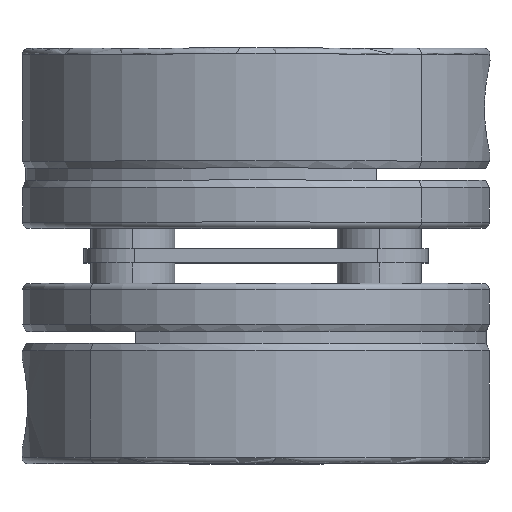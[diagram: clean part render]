
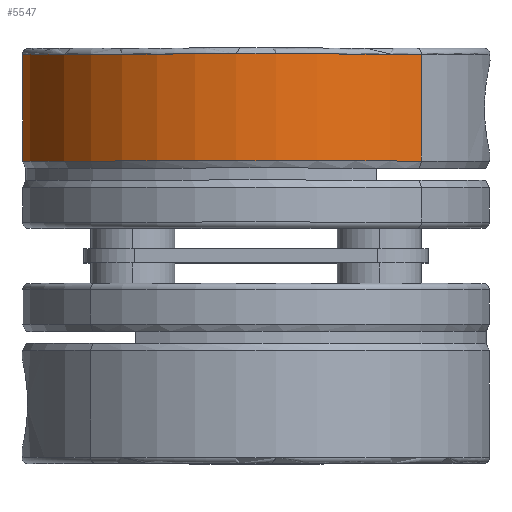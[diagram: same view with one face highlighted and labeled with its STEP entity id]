
A CAD part, top view. The second image highlights one B-rep face of the part: STEP entity #5547.
In plain terms, the highlighted cylindrical face has radius 19.5 mm (diameter 39 mm), a partial arc.
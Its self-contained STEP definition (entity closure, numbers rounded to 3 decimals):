
#211 = AXIS2_PLACEMENT_3D ( 'NONE', #5947, #2170, #4509 ) ;
#217 = ORIENTED_EDGE ( 'NONE', *, *, #2326, .F. ) ;
#338 = CARTESIAN_POINT ( 'NONE',  ( 0., 5.589, 19.5 ) ) ;
#469 = CARTESIAN_POINT ( 'NONE',  ( 0., 14.5, -19.5 ) ) ;
#545 = CARTESIAN_POINT ( 'NONE',  ( 0., 0., 0. ) ) ;
#716 = VERTEX_POINT ( 'NONE', #469 ) ;
#858 = VECTOR ( 'NONE', #3011, 1000. ) ;
#930 = CARTESIAN_POINT ( 'NONE',  ( 0., 0., -19.5 ) ) ;
#1083 = FACE_OUTER_BOUND ( 'NONE', #4563, .T. ) ;
#1302 = DIRECTION ( 'NONE',  ( 0., -1., 0. ) ) ;
#1369 = EDGE_CURVE ( 'NONE', #716, #2846, #1406, .T. ) ;
#1406 = LINE ( 'NONE', #930, #3516 ) ;
#1466 = DIRECTION ( 'NONE',  ( 0., -1., 0. ) ) ;
#1522 = ORIENTED_EDGE ( 'NONE', *, *, #5336, .F. ) ;
#1740 = DIRECTION ( 'NONE',  ( 0., 0., -1. ) ) ;
#1817 = CIRCLE ( 'NONE', #211, 19.5 ) ;
#1859 = CIRCLE ( 'NONE', #2461, 19.5 ) ;
#1935 = CARTESIAN_POINT ( 'NONE',  ( 0., 14.5, 19.5 ) ) ;
#2132 = CARTESIAN_POINT ( 'NONE',  ( 0., 5.589, -19.5 ) ) ;
#2170 = DIRECTION ( 'NONE',  ( 0., -1., 0. ) ) ;
#2258 = AXIS2_PLACEMENT_3D ( 'NONE', #545, #1466, #2371 ) ;
#2326 = EDGE_CURVE ( 'NONE', #2634, #6165, #3992, .T. ) ;
#2371 = DIRECTION ( 'NONE',  ( 0., 0., -1. ) ) ;
#2461 = AXIS2_PLACEMENT_3D ( 'NONE', #6145, #1302, #1740 ) ;
#2477 = CARTESIAN_POINT ( 'NONE',  ( 0., 0., 19.5 ) ) ;
#2634 = VERTEX_POINT ( 'NONE', #1935 ) ;
#2813 = DIRECTION ( 'NONE',  ( 0., -1., 0. ) ) ;
#2846 = VERTEX_POINT ( 'NONE', #2132 ) ;
#2985 = ORIENTED_EDGE ( 'NONE', *, *, #3422, .T. ) ;
#3011 = DIRECTION ( 'NONE',  ( 0., -1., 0. ) ) ;
#3406 = ORIENTED_EDGE ( 'NONE', *, *, #1369, .T. ) ;
#3422 = EDGE_CURVE ( 'NONE', #2634, #716, #1817, .T. ) ;
#3424 = CYLINDRICAL_SURFACE ( 'NONE', #2258, 19.5 ) ;
#3516 = VECTOR ( 'NONE', #2813, 1000. ) ;
#3992 = LINE ( 'NONE', #2477, #858 ) ;
#4509 = DIRECTION ( 'NONE',  ( 0., 0., -1. ) ) ;
#4563 = EDGE_LOOP ( 'NONE', ( #217, #2985, #3406, #1522 ) ) ;
#5336 = EDGE_CURVE ( 'NONE', #6165, #2846, #1859, .T. ) ;
#5547 = ADVANCED_FACE ( 'NONE', ( #1083 ), #3424, .T. ) ;
#5947 = CARTESIAN_POINT ( 'NONE',  ( 0., 14.5, 0. ) ) ;
#6145 = CARTESIAN_POINT ( 'NONE',  ( 0., 5.589, 0. ) ) ;
#6165 = VERTEX_POINT ( 'NONE', #338 ) ;
